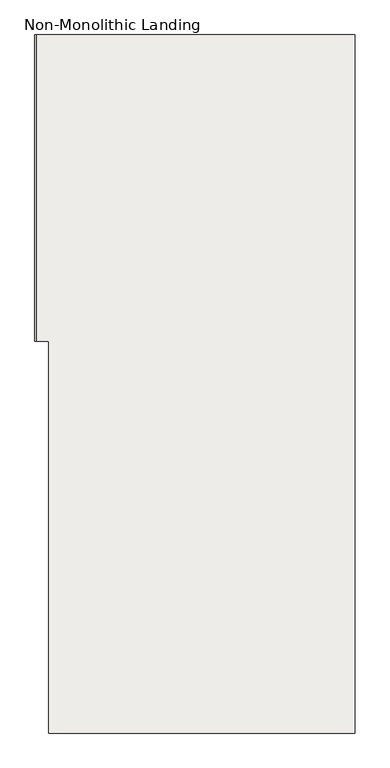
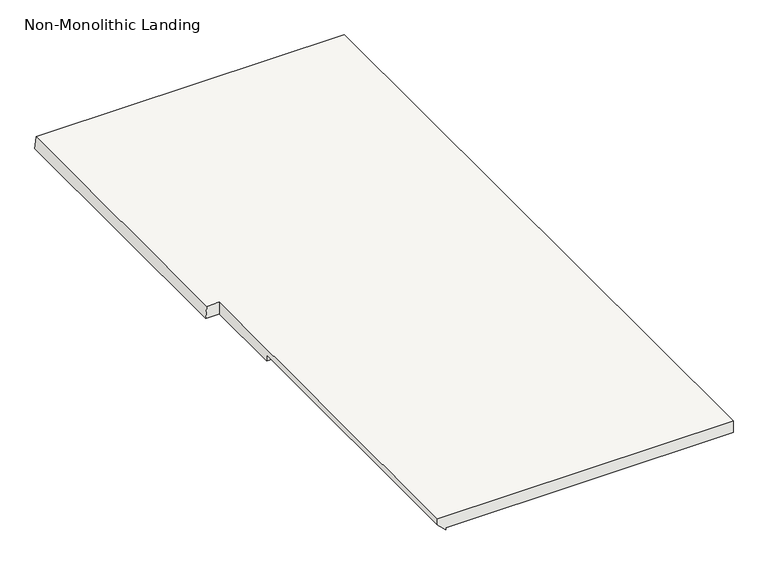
"""IFC4 building model written with IfcOpenShell, lengths in millimetres: slab geometry, Non-Monolithic Landing."""

from ifc_helpers import new_model, si_unit, origin, place, context, project, spatial, faceted_brep, source, transform, mapped, element, save


def non_monolithic_landing_91d3ffc2(model_context):
    return source(origin(), model_context, "Body", "Brep", [
        faceted_brep([(-15559.5481446, 18189.1635042, 1524.0), (-15563.4227209, 18189.1635042, 1485.9), (-15563.4227209, 17274.7635042, 1485.9), (-15559.5481446, 17274.7635042, 1524.0), (-14607.0481446, 16106.3635042, 1524.0), (-14607.0481446, 18189.1635042, 1524.0), (-15521.4481446, 18189.1635042, 1524.0), (-15521.4481446, 17274.7635042, 1524.0), (-15521.4481446, 16106.3635042, 1524.0), (-14607.0481446, 16106.3635042, 1485.9), (-15496.0481446, 16106.3635042, 1485.9), (-15496.0481446, 17020.7635042, 1485.9), (-15502.3981446, 17020.7635042, 1485.9), (-15521.4481446, 17020.7635042, 1485.9), (-15521.4481446, 17274.7635042, 1485.9), (-15521.4481446, 18189.1635042, 1485.9), (-14607.0481446, 18189.1635042, 1485.9), (-15521.4481446, 17020.7635042, 1504.95), (-15521.4481446, 16106.3635042, 1504.95), (-15496.0481446, 16106.3635042, 1479.55), (-15496.0481446, 17020.7635042, 1479.55)], [[[0, 1, 2, 3]], [[4, 5, 6, 0, 3, 7, 8]], [[9, 10, 11, 12, 13, 14, 2, 1, 15, 16]], [[13, 12, 17]], [[4, 8, 18, 19, 10, 9]], [[5, 4, 9, 16]], [[6, 5, 16, 15]], [[0, 6, 15, 1]], [[7, 3, 2, 14]], [[8, 7, 14, 13, 17, 18]], [[11, 20, 12]], [[19, 18, 17, 12, 20]], [[19, 20, 11, 10]]]),
    ])


if __name__ == "__main__":
    model = new_model("IFC4")
    model_context = context("Model", 3, world=origin())
    ifc_project = project(units=[si_unit("LENGTHUNIT", "METRE", prefix="MILLI")], contexts=[model_context])
    site = spatial("IfcSite", under=ifc_project)
    building = spatial("IfcBuilding", under=site)
    placement = place(None, origin())
    non_monolithic_landing_shape = non_monolithic_landing_91d3ffc2(model_context)
    element("IfcSlab", 1, ObjectType="Non-Monolithic Landing", at=placement, inside=building, context=model_context, shape_type="MappedRepresentation", body=[
        mapped(non_monolithic_landing_shape, transform((0.0, 0.0, 0.0), x_axis=(1.0, 0.0, 0.0), y_axis=(0.0, 1.0, 0.0), z_axis=(0.0, 0.0, 1.0))),
    ])
    save(model, "model.ifc")
